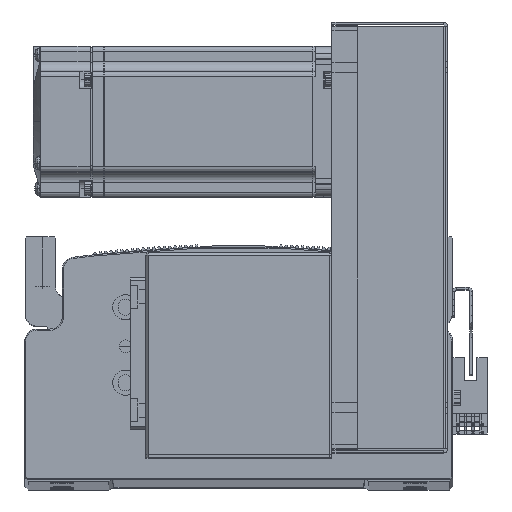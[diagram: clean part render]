
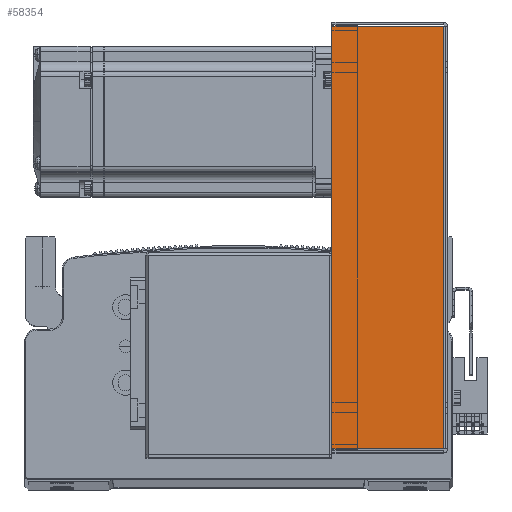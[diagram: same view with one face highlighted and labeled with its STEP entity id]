
A CAD part, top view. The second image highlights one B-rep face of the part: STEP entity #58354.
In plain terms, the highlighted planar face has unit normal (0, 0, 1).
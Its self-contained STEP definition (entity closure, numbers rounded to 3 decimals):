
#4034 = ORIENTED_EDGE ( 'NONE', *, *, #13904, .T. ) ;
#4114 = ORIENTED_EDGE ( 'NONE', *, *, #13928, .T. ) ;
#4193 = ORIENTED_EDGE ( 'NONE', *, *, #13942, .F. ) ;
#4567 = ORIENTED_EDGE ( 'NONE', *, *, #13923, .F. ) ;
#4649 = FACE_OUTER_BOUND ( 'NONE', #51312, .T. ) ;
#12697 = VERTEX_POINT ( 'NONE', #64184 ) ;
#12773 = VERTEX_POINT ( 'NONE', #64252 ) ;
#12791 = VERTEX_POINT ( 'NONE', #64232 ) ;
#12814 = VERTEX_POINT ( 'NONE', #64256 ) ;
#13904 = EDGE_CURVE ( 'NONE', #12697, #12791, #72903, .T. ) ;
#13923 = EDGE_CURVE ( 'NONE', #12814, #12773, #72901, .T. ) ;
#13928 = EDGE_CURVE ( 'NONE', #12791, #12773, #72916, .T. ) ;
#13942 = EDGE_CURVE ( 'NONE', #12697, #12814, #71769, .T. ) ;
#17474 = AXIS2_PLACEMENT_3D ( 'NONE', #84901, #84946, #84953 ) ;
#21100 = DIRECTION ( 'NONE',  ( 0., 1., 0. ) ) ;
#21102 = CARTESIAN_POINT ( 'NONE',  ( -84.5, 45., 40.5 ) ) ;
#21107 = DIRECTION ( 'NONE',  ( -1., 0., 0. ) ) ;
#21117 = CARTESIAN_POINT ( 'NONE',  ( -83.793, 0., 40.5 ) ) ;
#21150 = DIRECTION ( 'NONE',  ( -1., 0., 0. ) ) ;
#21164 = CARTESIAN_POINT ( 'NONE',  ( 0., 0.737, 40.5 ) ) ;
#51312 = EDGE_LOOP ( 'NONE', ( #4193, #4034, #4114, #4567 ) ) ;
#58354 = ADVANCED_FACE ( 'NONE', ( #4649 ), #84900, .F. ) ;
#64025 = DIRECTION ( 'NONE',  ( 0., 1., 0. ) ) ;
#64040 = CARTESIAN_POINT ( 'NONE',  ( 83.793, 0., 40.5 ) ) ;
#64184 = CARTESIAN_POINT ( 'NONE',  ( 83.793, 0.737, 40.5 ) ) ;
#64232 = CARTESIAN_POINT ( 'NONE',  ( 83.793, 45., 40.5 ) ) ;
#64252 = CARTESIAN_POINT ( 'NONE',  ( -83.793, 45., 40.5 ) ) ;
#64256 = CARTESIAN_POINT ( 'NONE',  ( -83.793, 0.737, 40.5 ) ) ;
#71698 = VECTOR ( 'NONE', #21150, 1000. ) ;
#71769 = LINE ( 'NONE', #21164, #71698 ) ;
#72877 = VECTOR ( 'NONE', #21100, 1000. ) ;
#72901 = LINE ( 'NONE', #21117, #72877 ) ;
#72903 = LINE ( 'NONE', #64040, #72912 ) ;
#72910 = VECTOR ( 'NONE', #21107, 1000. ) ;
#72912 = VECTOR ( 'NONE', #64025, 1000. ) ;
#72916 = LINE ( 'NONE', #21102, #72910 ) ;
#84900 = PLANE ( 'NONE',  #17474 ) ;
#84901 = CARTESIAN_POINT ( 'NONE',  ( 0., 0., 40.5 ) ) ;
#84946 = DIRECTION ( 'NONE',  ( 0., 0., -1. ) ) ;
#84953 = DIRECTION ( 'NONE',  ( -1., 0., 0. ) ) ;
